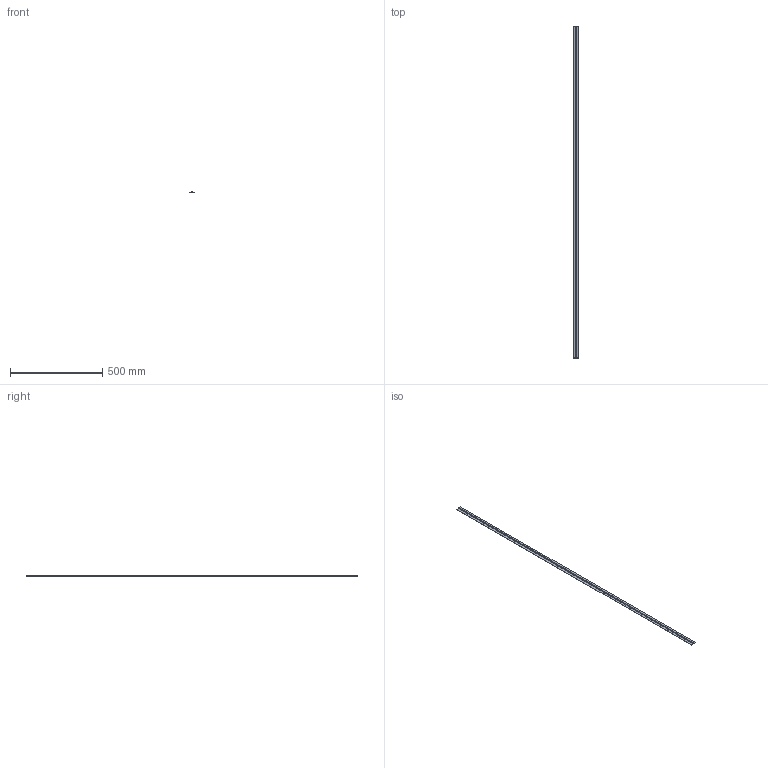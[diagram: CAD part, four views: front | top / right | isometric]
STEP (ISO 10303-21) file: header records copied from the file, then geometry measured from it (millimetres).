
FILE_DESCRIPTION(('STEP AP242'),'1');
FILE_NAME('42-1-4346.stp','2023-05-08T11:35:44',('TraceParts'),('TraceParts S.A.'),'Spatial InterOp 3D',' ',' ');
FILE_SCHEMA(('AP242_MANAGED_MODEL_BASED_3D_ENGINEERING_MIM_LF {1 0 10303 442 1 1 4}'));
Length unit declared in the file: millimetre
Products named in the file (1): 42-1-4346_1
Bounding box: 32 x 1800 x 5.4 mm (x, y, z)
Volume: 98224.7 mm3; surface area: 170279.8 mm2
Topology: 3 solids, 3 shells, 500 faces, 1482 edges, 988 vertices
Faces by surface type: plane 254, cylinder 246
Entity records: 20906 total; most frequent: DIRECTION 2980, CARTESIAN_POINT 2973, ORIENTED_EDGE 2964, EDGE_CURVE 1482, AXIS2_PLACEMENT_3D 995, LINE 990, VECTOR 990, VERTEX_POINT 988
